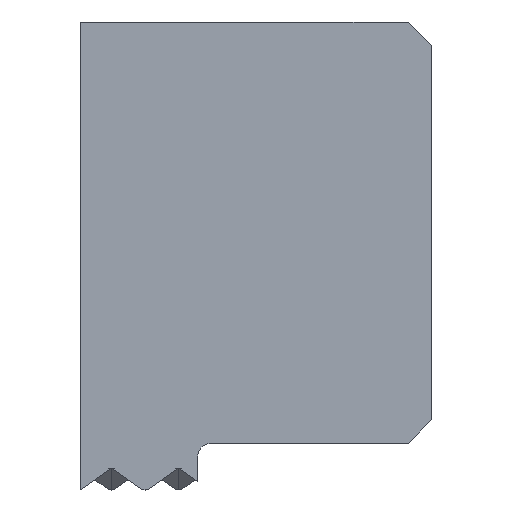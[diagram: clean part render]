
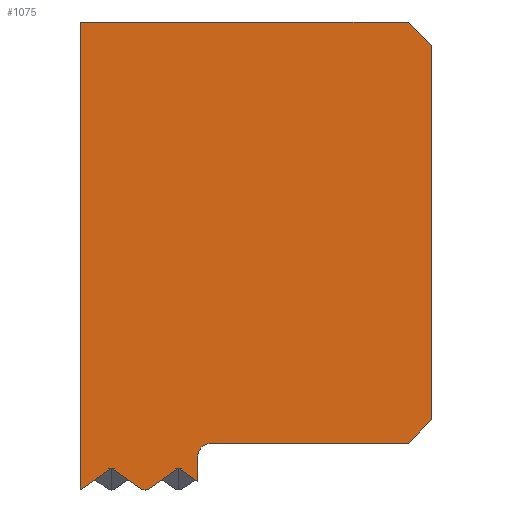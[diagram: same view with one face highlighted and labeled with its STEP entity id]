
A CAD part, left-side view. The second image highlights one B-rep face of the part: STEP entity #1075.
In plain terms, the highlighted planar face has unit normal (-1, 0, 0).
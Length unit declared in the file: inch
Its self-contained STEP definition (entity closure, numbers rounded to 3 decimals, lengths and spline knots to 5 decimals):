
#44 = LINE ( 'NONE', #1778, #7118 ) ;
#55 = CARTESIAN_POINT ( 'NONE',  ( -0.5, 0.25, -0.275 ) ) ;
#127 = LINE ( 'NONE', #3015, #980 ) ;
#164 = VECTOR ( 'NONE', #1944, 39.37008 ) ;
#328 = DIRECTION ( 'NONE',  ( 0., -1., 0. ) ) ;
#382 = CARTESIAN_POINT ( 'NONE',  ( -0.5, 0.30357, -0.275 ) ) ;
#393 = CARTESIAN_POINT ( 'NONE',  ( -0.5, 0.375, 0.225 ) ) ;
#415 = VERTEX_POINT ( 'NONE', #7482 ) ;
#417 = CARTESIAN_POINT ( 'NONE',  ( -0.5, 0.025, -0.225 ) ) ;
#455 = EDGE_CURVE ( 'NONE', #3246, #6662, #6906, .T. ) ;
#480 = EDGE_CURVE ( 'NONE', #720, #7344, #4822, .T. ) ;
#504 = EDGE_CURVE ( 'NONE', #1126, #700, #1859, .T. ) ;
#549 = EDGE_CURVE ( 'NONE', #5064, #6354, #127, .T. ) ;
#616 = VECTOR ( 'NONE', #4176, 39.37008 ) ;
#635 = LINE ( 'NONE', #747, #164 ) ;
#686 = ORIENTED_EDGE ( 'NONE', *, *, #3370, .T. ) ;
#700 = VERTEX_POINT ( 'NONE', #3201 ) ;
#712 = LINE ( 'NONE', #3598, #6680 ) ;
#720 = VERTEX_POINT ( 'NONE', #5785 ) ;
#747 = CARTESIAN_POINT ( 'NONE',  ( -0.5, 0., 0. ) ) ;
#778 = VERTEX_POINT ( 'NONE', #393 ) ;
#913 = CARTESIAN_POINT ( 'NONE',  ( -0.5, 0.3418, -0.25153 ) ) ;
#935 = EDGE_CURVE ( 'NONE', #6314, #415, #44, .T. ) ;
#980 = VECTOR ( 'NONE', #1285, 39.37008 ) ;
#1014 = DIRECTION ( 'NONE',  ( 0., -0.816, -0.577 ) ) ;
#1075 = ADVANCED_FACE ( 'NONE', ( #4346 ), #6160, .T. ) ;
#1126 = VERTEX_POINT ( 'NONE', #7093 ) ;
#1210 = CARTESIAN_POINT ( 'NONE',  ( -0.5, 0., -0.225 ) ) ;
#1285 = DIRECTION ( 'NONE',  ( 0., -0.816, 0.577 ) ) ;
#1550 = EDGE_CURVE ( 'NONE', #6354, #1126, #3836, .T. ) ;
#1578 = CARTESIAN_POINT ( 'NONE',  ( -0.5, 0.375, -0.275 ) ) ;
#1636 = DIRECTION ( 'NONE',  ( 1., 0., 0. ) ) ;
#1694 = ORIENTED_EDGE ( 'NONE', *, *, #5718, .T. ) ;
#1778 = CARTESIAN_POINT ( 'NONE',  ( -0.5, 0., 0.2 ) ) ;
#1819 = EDGE_CURVE ( 'NONE', #3666, #6314, #635, .T. ) ;
#1859 = LINE ( 'NONE', #55, #616 ) ;
#1944 = DIRECTION ( 'NONE',  ( 0., 0., 1. ) ) ;
#2279 = CARTESIAN_POINT ( 'NONE',  ( -0.5, 0.025, -0.225 ) ) ;
#2310 = ORIENTED_EDGE ( 'NONE', *, *, #504, .T. ) ;
#2318 = ORIENTED_EDGE ( 'NONE', *, *, #549, .T. ) ;
#2321 = DIRECTION ( 'NONE',  ( 0., 0.707, 0.707 ) ) ;
#2334 = AXIS2_PLACEMENT_3D ( 'NONE', #6087, #6699, #3770 ) ;
#2458 = CARTESIAN_POINT ( 'NONE',  ( -0.5, 0.27037, -0.25152 ) ) ;
#2540 = AXIS2_PLACEMENT_3D ( 'NONE', #7488, #1636, #4606 ) ;
#2729 = LINE ( 'NONE', #5005, #3033 ) ;
#3012 = EDGE_CURVE ( 'NONE', #778, #6548, #2729, .T. ) ;
#3015 = CARTESIAN_POINT ( 'NONE',  ( -0.5, 0.30357, -0.275 ) ) ;
#3033 = VECTOR ( 'NONE', #6816, 39.37008 ) ;
#3082 = EDGE_CURVE ( 'NONE', #6548, #3246, #6851, .T. ) ;
#3201 = CARTESIAN_POINT ( 'NONE',  ( -0.5, 0.25, -0.24 ) ) ;
#3246 = VERTEX_POINT ( 'NONE', #913 ) ;
#3271 = ORIENTED_EDGE ( 'NONE', *, *, #3880, .T. ) ;
#3370 = EDGE_CURVE ( 'NONE', #7344, #3666, #5622, .T. ) ;
#3598 = CARTESIAN_POINT ( 'NONE',  ( -0.5, 0., 0.225 ) ) ;
#3666 = VERTEX_POINT ( 'NONE', #5565 ) ;
#3770 = DIRECTION ( 'NONE',  ( 0., 0., 1. ) ) ;
#3833 = CARTESIAN_POINT ( 'NONE',  ( -0.5, 0.3086, -0.275 ) ) ;
#3836 = LINE ( 'NONE', #4914, #4030 ) ;
#3880 = EDGE_CURVE ( 'NONE', #700, #720, #5379, .T. ) ;
#3919 = ORIENTED_EDGE ( 'NONE', *, *, #1550, .T. ) ;
#3933 = VECTOR ( 'NONE', #4715, 39.37008 ) ;
#4030 = VECTOR ( 'NONE', #4417, 39.37008 ) ;
#4168 = ORIENTED_EDGE ( 'NONE', *, *, #935, .T. ) ;
#4176 = DIRECTION ( 'NONE',  ( 0., 0., 1. ) ) ;
#4187 = VECTOR ( 'NONE', #1014, 39.37008 ) ;
#4204 = EDGE_LOOP ( 'NONE', ( #2310, #3271, #7571, #686, #7434, #4168, #1694, #4440, #4373, #5601, #7459, #2318, #3919 ) ) ;
#4346 = FACE_OUTER_BOUND ( 'NONE', #4204, .T. ) ;
#4373 = ORIENTED_EDGE ( 'NONE', *, *, #3082, .T. ) ;
#4417 = DIRECTION ( 'NONE',  ( 0., -0.816, -0.577 ) ) ;
#4440 = ORIENTED_EDGE ( 'NONE', *, *, #3012, .T. ) ;
#4468 = DIRECTION ( 'NONE',  ( 0., -0.816, 0.577 ) ) ;
#4561 = CARTESIAN_POINT ( 'NONE',  ( -0.5, 0.3418, -0.25152 ) ) ;
#4606 = DIRECTION ( 'NONE',  ( 0., 0., -1. ) ) ;
#4715 = DIRECTION ( 'NONE',  ( 0., -1., 0. ) ) ;
#4771 = CARTESIAN_POINT ( 'NONE',  ( -0.5, 0., 0.2 ) ) ;
#4822 = LINE ( 'NONE', #1210, #3933 ) ;
#4914 = CARTESIAN_POINT ( 'NONE',  ( -0.5, 0.27037, -0.25152 ) ) ;
#4928 = EDGE_CURVE ( 'NONE', #6662, #5064, #5568, .T. ) ;
#5005 = CARTESIAN_POINT ( 'NONE',  ( -0.5, 0.375, 0. ) ) ;
#5064 = VERTEX_POINT ( 'NONE', #382 ) ;
#5379 = CIRCLE ( 'NONE', #2540, 0.015 ) ;
#5565 = CARTESIAN_POINT ( 'NONE',  ( -0.5, 0., -0.2 ) ) ;
#5568 = LINE ( 'NONE', #6760, #7590 ) ;
#5601 = ORIENTED_EDGE ( 'NONE', *, *, #455, .T. ) ;
#5622 = LINE ( 'NONE', #417, #5994 ) ;
#5718 = EDGE_CURVE ( 'NONE', #415, #778, #712, .T. ) ;
#5785 = CARTESIAN_POINT ( 'NONE',  ( -0.5, 0.235, -0.225 ) ) ;
#5952 = DIRECTION ( 'NONE',  ( 0., 1., 0. ) ) ;
#5994 = VECTOR ( 'NONE', #6391, 39.37008 ) ;
#6087 = CARTESIAN_POINT ( 'NONE',  ( -0.5, 0., 0. ) ) ;
#6160 = PLANE ( 'NONE',  #2334 ) ;
#6314 = VERTEX_POINT ( 'NONE', #4771 ) ;
#6354 = VERTEX_POINT ( 'NONE', #2458 ) ;
#6391 = DIRECTION ( 'NONE',  ( 0., -0.707, 0.707 ) ) ;
#6548 = VERTEX_POINT ( 'NONE', #6617 ) ;
#6617 = CARTESIAN_POINT ( 'NONE',  ( -0.5, 0.375, -0.275 ) ) ;
#6662 = VERTEX_POINT ( 'NONE', #3833 ) ;
#6680 = VECTOR ( 'NONE', #5952, 39.37008 ) ;
#6699 = DIRECTION ( 'NONE',  ( -1., 0., 0. ) ) ;
#6760 = CARTESIAN_POINT ( 'NONE',  ( -0.5, 0., -0.275 ) ) ;
#6816 = DIRECTION ( 'NONE',  ( 0., 0., -1. ) ) ;
#6851 = LINE ( 'NONE', #1578, #7331 ) ;
#6906 = LINE ( 'NONE', #4561, #4187 ) ;
#7093 = CARTESIAN_POINT ( 'NONE',  ( -0.5, 0.25, -0.26593 ) ) ;
#7118 = VECTOR ( 'NONE', #2321, 39.37008 ) ;
#7331 = VECTOR ( 'NONE', #4468, 39.37008 ) ;
#7344 = VERTEX_POINT ( 'NONE', #2279 ) ;
#7434 = ORIENTED_EDGE ( 'NONE', *, *, #1819, .T. ) ;
#7459 = ORIENTED_EDGE ( 'NONE', *, *, #4928, .T. ) ;
#7482 = CARTESIAN_POINT ( 'NONE',  ( -0.5, 0.025, 0.225 ) ) ;
#7488 = CARTESIAN_POINT ( 'NONE',  ( -0.5, 0.235, -0.24 ) ) ;
#7571 = ORIENTED_EDGE ( 'NONE', *, *, #480, .T. ) ;
#7590 = VECTOR ( 'NONE', #328, 39.37008 ) ;
